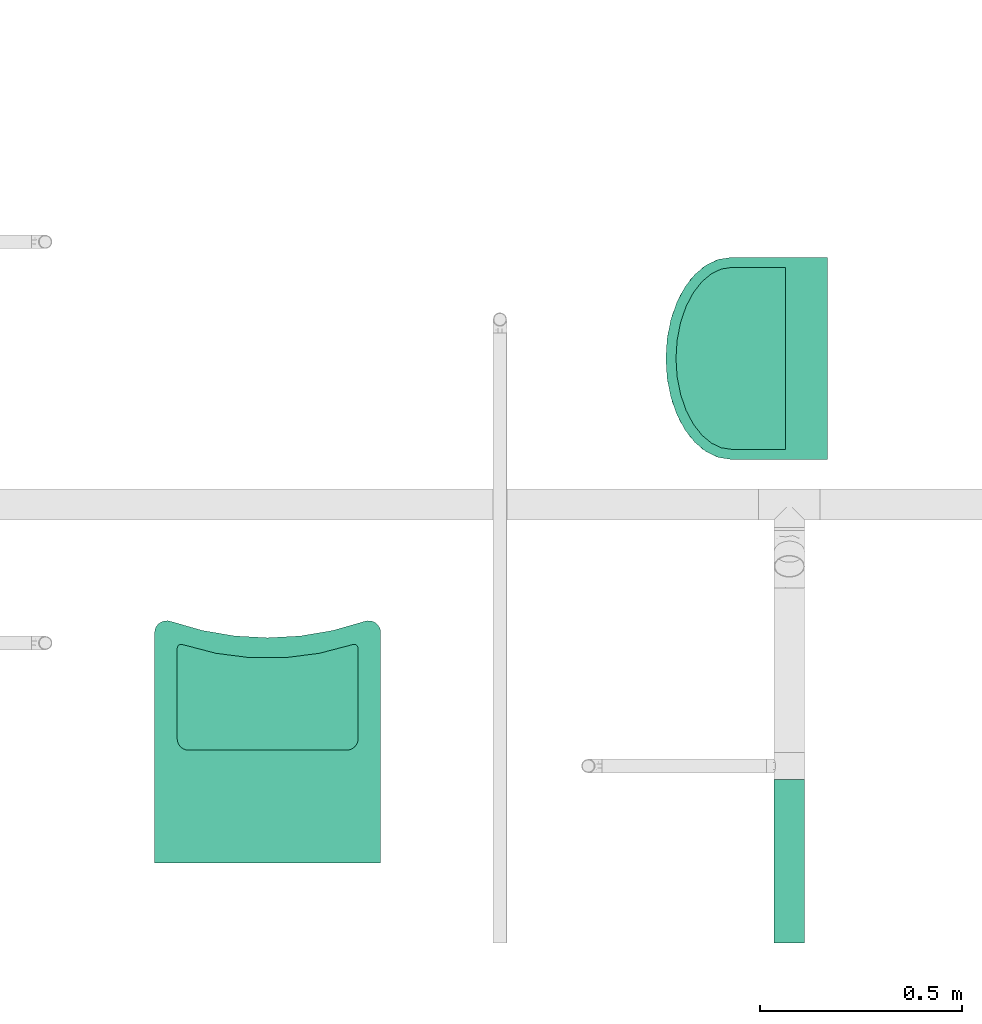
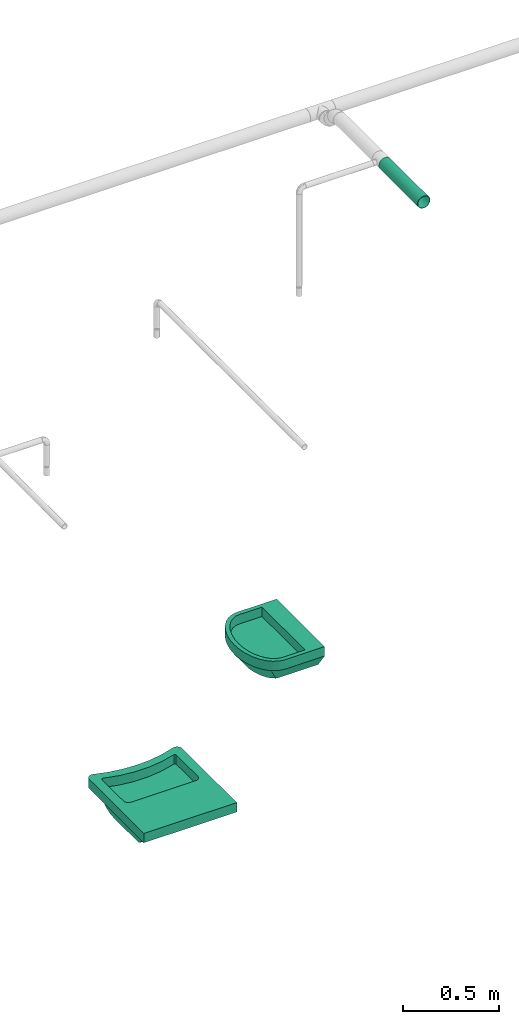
# One storey, part 85 of 95: 2 flow terminals, 1 flow segment.
"""IFC2X3 building model written with IfcOpenShell, lengths in millimetres."""

from ifc_helpers import new_model, entity, si_unit, converted_unit, derived_unit, direction, frame, origin_with_axes, place, context, subcontext, project, spatial, open_shell, faceted_brep, surface_model, source, transform, mapped, type_object, element, save


model = new_model("IFC2X3")

# Units and contexts
model_context = context("Model", 3, precision=0.01, world=frame((0.0, 4.29681676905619e-09, 0.0)), true_north=direction((4.01073788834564e-13, 1.0)))
plan_context = context("Plan", 3, precision=0.01, world=frame((0.0, 4.29681676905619e-09, 0.0)), true_north=direction((4.01073788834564e-13, 1.0)))
body_context = subcontext(model_context, "Body", "Model", "MODEL_VIEW")
ifc_project = project(units=[converted_unit("PLANEANGLEUNIT", "DEGREE", entity("IfcPositiveLengthMeasure", 0.0174532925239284), si_unit("PLANEANGLEUNIT", "RADIAN"), dimensions=[0, 0, 0, 0, 0, 0, 0]), si_unit("AREAUNIT", "SQUARE_METRE"), si_unit("LENGTHUNIT", "METRE", prefix="MILLI"), si_unit("MASSUNIT", "GRAM", prefix="KILO"), si_unit("POWERUNIT", "WATT"), si_unit("PRESSUREUNIT", "PASCAL"), si_unit("FORCEUNIT", "NEWTON", prefix="KILO"), si_unit("ELECTRICVOLTAGEUNIT", "VOLT"), si_unit("ELECTRICCURRENTUNIT", "AMPERE"), si_unit("THERMODYNAMICTEMPERATUREUNIT", "DEGREE_CELSIUS"), si_unit("TIMEUNIT", "SECOND"), si_unit("VOLUMEUNIT", "CUBIC_METRE"), derived_unit("LINEARVELOCITYUNIT", [(si_unit("LENGTHUNIT", "METRE"), 1), (si_unit("TIMEUNIT", "SECOND"), -1)]), derived_unit("VOLUMETRICFLOWRATEUNIT", [(si_unit("VOLUMEUNIT", "CUBIC_METRE"), 1), (si_unit("TIMEUNIT", "SECOND"), -1)]), derived_unit("THERMALTRANSMITTANCEUNIT", [(si_unit("POWERUNIT", "WATT"), 1), (si_unit("THERMODYNAMICTEMPERATUREUNIT", "KELVIN"), -1), (si_unit("AREAUNIT", "SQUARE_METRE"), -1)]), derived_unit("SOUNDPRESSUREUNIT", [(si_unit("PRESSUREUNIT", "PASCAL"), 1)])], contexts=[model_context, plan_context])

# Site, building, storey
site_placement = place(None, frame((0.0, -4.29681676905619e-09, 0.0), z_axis=(0.0, 0.0, 1.0), x_axis=(1.0, 0.0, 0.0)))
site = spatial("IfcSite", under=ifc_project, at=site_placement, CompositionType="ELEMENT")
building_placement = place(site_placement, frame((0.0, 4.29681676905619e-09, 0.0), z_axis=(0.0, 0.0, 1.0), x_axis=(1.0, 0.0, 0.0)))
building = spatial("IfcBuilding", under=site, at=building_placement, Name="mc-building", CompositionType="ELEMENT")
storey_placement = place(building_placement, frame((0.0, 0.0, 210900.0), z_axis=(0.0, 0.0, 1.0), x_axis=(1.0, 0.0, 0.0)))
storey = spatial("IfcBuildingStorey", under=building, at=storey_placement, Name="Nivå F", CompositionType="ELEMENT", Elevation=210900.0)

# Flow terminals
sanitary_terminal_type_1 = type_object("IfcSanitaryTerminalType", Name="A313 - Vask - 560 x 600 mm", PredefinedType="NOTDEFINED")
shared_shape_1 = source(origin_with_axes(), body_context, "Body", "SurfaceModel", [
    surface_model("IfcShellBasedSurfaceModel", [(-125.0, 238.65771, 740.00003), (69.36977, 395.95483, 740.00003), (16.52906, 384.02209, 740.00003), (-30.87245, 364.80019, 740.00003), (125.0, 400.0, 740.00003), (375.0, 238.65771, 740.00003), (233.47094, 384.02209, 740.00003), (180.63024, 395.95483, 740.00003), (280.87245, 364.80019, 740.00003), (-70.45787, 339.25298, 740.00003), (-100.24222, 308.6615, 740.00003), (-118.73198, 274.55973, 740.00003), (-125.0, 0.0, 740.00003), (350.24221, 308.6615, 740.00003), (320.45787, 339.25298, 740.00003), (368.73196, 274.55973, 740.00003), (375.0, 0.0, 740.00003), (307.99999, 238.65771, 645.00002), (149.89975, 332.02661, 645.00002), (197.72223, 324.43445, 645.00002), (239.75161, 310.23626, 645.00002), (100.10024, 332.02661, 645.00002), (307.99999, 0.0, 645.00002), (-58.0, 238.65771, 645.00002), (10.24839, 310.23626, 645.00002), (52.27777, 324.43445, 645.00002), (-22.6773, 291.49031, 645.00002), (272.67731, 291.49031, 645.00002), (294.37927, 271.36561, 645.00002), (305.14467, 253.36524, 645.00002), (-58.0, 0.0, 645.00002), (-55.14466, 253.36524, 645.00002), (-44.37926, 271.36561, 645.00002), (328.59513, 238.65771, 674.20202), (-78.59511, 238.65771, 674.20202), (-100.0, 238.65771, 800.0), (-120.19632, 270.13402, 800.0), (-125.0, 238.65771, 800.0), (-96.30727, 262.77077, 800.0), (-105.96989, 300.40072, 800.0), (-125.0, 0.0, 800.0), (-100.0, 103.21022, 800.0), (-84.92823, 286.90067, 800.0), (-82.86741, 328.29468, 800.0), (-65.49599, 310.31224, 800.0), (-51.7767, 352.74395, 800.0), (-38.21841, 331.73716, 800.0), (-13.89256, 372.80893, 800.0), (-3.99228, 349.85107, 800.0), (29.32914, 387.71856, 800.0), (35.7857, 363.56585, 800.0), (79.41057, 372.10309, 800.0), (76.22742, 396.89987, 800.0), (125.0, 400.0, 800.0), (125.0, 375.0, 800.0), (350.0, 103.21022, 800.0), (346.30728, 262.77077, 800.0), (350.0, 238.65771, 800.0), (370.19634, 270.13402, 800.0), (332.8674, 328.29468, 800.0), (315.496, 310.31224, 800.0), (334.92821, 286.90067, 800.0), (355.96988, 300.40072, 800.0), (375.0, 0.0, 800.0), (375.0, 238.65771, 800.0), (170.58944, 372.10309, 800.0), (214.21429, 363.56585, 800.0), (173.77259, 396.89987, 800.0), (220.67085, 387.71856, 800.0), (253.99227, 349.85107, 800.0), (301.77669, 352.74395, 800.0), (288.21842, 331.73716, 800.0), (263.89256, 372.80893, 800.0), (350.0, 238.65771, 740.00003), (370.19634, 270.13402, 740.00003), (346.30728, 262.77077, 740.00003), (355.96988, 300.40072, 740.00003), (350.0, 103.21022, 740.00003), (334.92821, 286.90067, 740.00003), (332.8674, 328.29468, 740.00003), (315.496, 310.31224, 740.00003), (301.77669, 352.74395, 740.00003), (288.21842, 331.73716, 740.00003), (263.89256, 372.80893, 740.00003), (253.99227, 349.85107, 740.00003), (220.67085, 387.71856, 740.00003), (214.21429, 363.56585, 740.00003), (170.58944, 372.10309, 740.00003), (173.77259, 396.89987, 740.00003), (125.0, 375.0, 740.00003), (-100.0, 103.21022, 740.00003), (-96.30727, 262.77077, 740.00003), (-100.0, 238.65771, 740.00003), (-120.19632, 270.13402, 740.00003), (-82.86741, 328.29468, 740.00003), (-65.49599, 310.31224, 740.00003), (-84.92823, 286.90067, 740.00003), (-105.96989, 300.40072, 740.00003), (79.41057, 372.10309, 740.00003), (35.7857, 363.56585, 740.00003), (76.22742, 396.89987, 740.00003), (29.32914, 387.71856, 740.00003), (-3.99228, 349.85107, 740.00003), (-51.7767, 352.74395, 740.00003), (-38.21841, 331.73716, 740.00003), (-13.89256, 372.80893, 740.00003)], [open_shell([[[0, 1, 2]], [[2, 3, 0]], [[4, 1, 0]], [[5, 6, 7]], [[5, 8, 6]], [[5, 7, 4]], [[3, 9, 0]], [[10, 11, 0]], [[5, 4, 0]], [[5, 0, 12]], [[13, 14, 5]], [[13, 5, 15]], [[8, 5, 14]], [[12, 16, 5]], [[0, 9, 10]], [[17, 18, 19]], [[19, 20, 17]], [[21, 18, 22]], [[23, 24, 25]], [[23, 26, 24]], [[23, 25, 21]], [[20, 27, 17]], [[28, 29, 17]], [[18, 17, 22]], [[22, 30, 21]], [[31, 32, 23]], [[32, 26, 23]], [[30, 23, 21]], [[17, 27, 28]], [[16, 22, 5]], [[17, 5, 22]], [[29, 13, 17]], [[28, 14, 29]], [[8, 27, 20]], [[20, 19, 6]], [[28, 27, 14]], [[18, 7, 19]], [[17, 13, 15]], [[15, 33, 17]], [[6, 8, 20]], [[14, 27, 8]], [[14, 13, 29]], [[7, 6, 19]], [[18, 4, 7]], [[25, 1, 21]], [[24, 2, 25]], [[32, 31, 9]], [[9, 26, 32]], [[26, 3, 24]], [[10, 31, 23]], [[11, 23, 34]], [[1, 4, 21]], [[2, 1, 25]], [[3, 2, 24]], [[15, 5, 33]], [[26, 9, 3]], [[31, 10, 9]], [[11, 10, 23]], [[34, 0, 11]], [[21, 4, 18]], [[0, 23, 12]], [[30, 12, 23]], [[12, 30, 22]], [[22, 16, 12]], [[35, 36, 37]], [[38, 39, 36]], [[37, 40, 41]], [[41, 35, 37]], [[39, 42, 43]], [[38, 42, 39]], [[35, 38, 36]], [[43, 42, 44]], [[44, 45, 43]], [[45, 44, 46]], [[46, 47, 45]], [[47, 46, 48]], [[47, 48, 49]], [[50, 51, 52]], [[50, 52, 49]], [[53, 52, 51]], [[53, 51, 54]], [[50, 49, 48]], [[41, 40, 55]], [[56, 57, 58]], [[59, 60, 61]], [[56, 62, 61]], [[55, 63, 64]], [[56, 58, 62]], [[57, 64, 58]], [[64, 57, 55]], [[59, 61, 62]], [[65, 66, 67]], [[65, 67, 53]], [[67, 66, 68]], [[66, 69, 68]], [[53, 54, 65]], [[60, 70, 71]], [[70, 60, 59]], [[71, 72, 69]], [[72, 71, 70]], [[69, 72, 68]], [[55, 40, 63]], [[73, 74, 5]], [[75, 76, 74]], [[5, 16, 77]], [[77, 73, 5]], [[76, 78, 79]], [[75, 78, 76]], [[73, 75, 74]], [[79, 78, 80]], [[80, 81, 79]], [[81, 80, 82]], [[82, 83, 81]], [[83, 82, 84]], [[83, 84, 85]], [[86, 87, 88]], [[86, 88, 85]], [[4, 88, 87]], [[4, 87, 89]], [[86, 85, 84]], [[77, 16, 90]], [[91, 92, 93]], [[94, 95, 96]], [[91, 97, 96]], [[90, 12, 0]], [[91, 93, 97]], [[92, 0, 93]], [[0, 92, 90]], [[94, 96, 97]], [[98, 99, 100]], [[98, 100, 4]], [[100, 99, 101]], [[99, 102, 101]], [[4, 89, 98]], [[95, 103, 104]], [[103, 95, 94]], [[104, 105, 102]], [[105, 104, 103]], [[102, 105, 101]], [[90, 16, 12]], [[63, 40, 12]], [[12, 16, 63]], [[64, 63, 5]], [[16, 5, 63]], [[64, 5, 58]], [[62, 58, 74]], [[76, 59, 62]], [[72, 70, 81]], [[83, 68, 72]], [[79, 70, 59]], [[85, 67, 68]], [[59, 76, 79]], [[62, 74, 76]], [[58, 5, 74]], [[4, 53, 88]], [[67, 85, 88]], [[72, 81, 83]], [[83, 85, 68]], [[70, 79, 81]], [[88, 53, 67]], [[47, 49, 105]], [[49, 52, 101]], [[45, 47, 103]], [[93, 36, 39]], [[39, 43, 97]], [[43, 45, 94]], [[37, 36, 0]], [[100, 53, 4]], [[52, 100, 101]], [[49, 101, 105]], [[105, 103, 47]], [[94, 45, 103]], [[43, 94, 97]], [[39, 97, 93]], [[93, 0, 36]], [[52, 53, 100]], [[40, 37, 12]], [[0, 12, 37]], [[55, 57, 73]], [[73, 77, 55]], [[41, 55, 90]], [[77, 90, 55]], [[35, 41, 92]], [[90, 92, 41]], [[35, 92, 38]], [[42, 38, 91]], [[96, 44, 42]], [[48, 46, 104]], [[50, 48, 102]], [[95, 46, 44]], [[50, 99, 51]], [[91, 38, 92]], [[95, 44, 96]], [[91, 96, 42]], [[104, 102, 48]], [[46, 95, 104]], [[99, 50, 102]], [[98, 51, 99]], [[98, 89, 54]], [[98, 54, 51]], [[69, 66, 84]], [[66, 65, 86]], [[71, 69, 82]], [[56, 61, 75]], [[61, 60, 78]], [[60, 71, 80]], [[56, 73, 57]], [[86, 65, 87]], [[87, 65, 89]], [[84, 66, 86]], [[56, 75, 73]], [[71, 82, 80]], [[60, 80, 78]], [[61, 78, 75]], [[82, 69, 84]], [[54, 89, 65]]])]),
])
flow_terminal_1_placement = place(storey_placement, frame((534695.0, 442097.875, 0.0), z_axis=(0.0, 0.0, 1.0), x_axis=(0.0, 1.0, 0.0)))
element("IfcFlowTerminal", 1, at=flow_terminal_1_placement, inside=storey, type_object=sanitary_terminal_type_1, Name="A313 - Vask - 560 x 600 mm", context=body_context, shape_type="MappedRepresentation", body=[
    mapped(shared_shape_1, transform((0.0, 0.0, 0.0), scale=1.0)),
])
sanitary_terminal_type_2 = type_object("IfcSanitaryTerminalType", Name="A313 - HC Vask - 560 x 600 mm", PredefinedType="NOTDEFINED")
shared_shape_2 = source(origin_with_axes(), body_context, "Body", "SurfaceModel", [
    surface_model("IfcShellBasedSurfaceModel", [(359.0, 541.34425, 740.00003), (359.0, 497.70022, 681.78288), (359.0, 522.91223, 708.35008), (359.0, 467.05776, 661.72051), (359.0, 432.62497, 649.23682), (359.0, 396.24493, 645.00002), (359.0, 103.21022, 740.00003), (359.0, 143.21023, 645.00002), (359.0, 103.21022, 684.99998), (359.0, 123.21023, 650.35899), (359.0, 108.56921, 665.00003), (359.0, 104.5732, 674.64727), (359.0, 132.85746, 646.36294), (359.0, 114.92595, 656.71573), (-109.0, 104.5732, 674.64727), (-109.0, 103.21022, 684.99998), (-109.0, 108.56921, 665.00003), (-109.0, 143.21023, 645.00002), (-109.0, 123.21023, 650.35899), (-109.0, 114.92595, 656.71573), (-109.0, 132.85746, 646.36294), (-109.0, 103.21022, 740.00003), (-109.0, 497.70022, 681.78288), (-109.0, 541.34425, 740.00003), (-109.0, 522.91223, 708.35008), (-109.0, 467.05776, 661.72051), (-109.0, 396.24493, 645.00002), (-109.0, 432.62497, 649.23682), (-155.0, 178.6577, 800.0), (-95.24871, 293.45771, 800.0), (-98.04592, 300.21076, 800.0), (-71.0, 279.45771, 800.0), (-155.0, 0.0, 800.0), (-99.0, 307.45769, 800.0), (-155.0, 569.99998, 800.0), (-98.72224, 533.68479, 800.0), (-97.90436, 535.89531, 800.0), (-99.0, 531.34424, 800.0), (-85.0, 283.20899, 800.0), (-90.79899, 287.65871, 800.0), (-78.24693, 280.41177, 800.0), (43.60833, 562.15064, 800.0), (-2.90605, 519.18452, 800.0), (82.13206, 508.26836, 800.0), (404.99999, 0.0, 800.0), (-96.59183, 537.853, 800.0), (-136.09922, 597.87125, 800.0), (-151.65506, 583.76618, 800.0), (-154.15178, 577.08338, 800.0), (-142.36615, 594.46255, 800.0), (-147.65104, 589.67055, 800.0), (-129.20466, 599.70387, 800.0), (-122.07232, 599.85681, 800.0), (-115.10554, 598.32136, 800.0), (-94.85755, 539.44912, 800.0), (-92.79785, 540.59498, 800.0), (-90.52718, 541.22696, 800.0), (-88.17167, 541.30987, 800.0), (-85.86217, 540.83919, 800.0), (-36.76277, 575.78593, 800.0), (125.0, 557.58646, 800.0), (328.24693, 280.41177, 800.0), (320.99999, 279.45771, 800.0), (404.99999, 178.6577, 800.0), (340.799, 287.65871, 800.0), (335.0, 283.20899, 800.0), (206.39167, 562.15064, 800.0), (167.86795, 508.26836, 800.0), (252.90606, 519.18452, 800.0), (345.24869, 293.45771, 800.0), (348.99999, 307.45769, 800.0), (348.04591, 300.21076, 800.0), (348.99999, 531.34424, 800.0), (404.99999, 569.99998, 800.0), (346.59182, 537.853, 800.0), (347.90438, 535.89531, 800.0), (348.72225, 533.68479, 800.0), (344.85755, 539.44912, 800.0), (365.10555, 598.32136, 800.0), (335.86217, 540.83919, 800.0), (338.17165, 541.30987, 800.0), (340.52718, 541.22696, 800.0), (342.79786, 540.59498, 800.0), (286.76277, 575.78593, 800.0), (404.15178, 577.08338, 800.0), (401.65506, 583.76618, 800.0), (386.09922, 597.87125, 800.0), (379.20465, 599.70387, 800.0), (392.36617, 594.46255, 800.0), (397.65105, 589.67055, 800.0), (372.07231, 599.85681, 800.0), (404.99999, 178.6577, 740.00003), (345.24869, 293.45771, 740.00003), (348.04591, 300.21076, 740.00003), (320.99999, 279.45771, 740.00003), (404.99999, 0.0, 740.00003), (348.99999, 307.45769, 740.00003), (404.99999, 569.99998, 740.00003), (348.72225, 533.68479, 740.00003), (347.90438, 535.89531, 740.00003), (348.99999, 531.34424, 740.00003), (335.0, 283.20899, 740.00003), (340.799, 287.65871, 740.00003), (328.24693, 280.41177, 740.00003), (206.39167, 562.15064, 740.00003), (252.90606, 519.18452, 740.00003), (167.86795, 508.26836, 740.00003), (-71.0, 279.45771, 740.00003), (346.59182, 537.853, 740.00003), (386.09922, 597.87125, 740.00003), (401.65506, 583.76618, 740.00003), (404.15178, 577.08338, 740.00003), (392.36617, 594.46255, 740.00003), (397.65105, 589.67055, 740.00003), (379.20465, 599.70387, 740.00003), (372.07231, 599.85681, 740.00003), (365.10555, 598.32136, 740.00003), (344.85755, 539.44912, 740.00003), (342.79786, 540.59498, 740.00003), (340.52718, 541.22696, 740.00003), (338.17165, 541.30987, 740.00003), (335.86217, 540.83919, 740.00003), (286.76277, 575.78593, 740.00003), (125.0, 557.58646, 740.00003), (-78.24693, 280.41177, 740.00003), (-155.0, 178.6577, 740.00003), (-90.79899, 287.65871, 740.00003), (-85.0, 283.20899, 740.00003), (43.60833, 562.15064, 740.00003), (82.13206, 508.26836, 740.00003), (-2.90605, 519.18452, 740.00003), (-95.24871, 293.45771, 740.00003), (-99.0, 307.45769, 740.00003), (-98.04592, 300.21076, 740.00003), (-155.0, 0.0, 740.00003), (-99.0, 531.34424, 740.00003), (-155.0, 569.99998, 740.00003), (-96.59183, 537.853, 740.00003), (-97.90436, 535.89531, 740.00003), (-98.72224, 533.68479, 740.00003), (-94.85755, 539.44912, 740.00003), (-115.10554, 598.32136, 740.00003), (-85.86217, 540.83919, 740.00003), (-88.17167, 541.30987, 740.00003), (-90.52718, 541.22696, 740.00003), (-92.79785, 540.59498, 740.00003), (-36.76277, 575.78593, 740.00003), (-154.15178, 577.08338, 740.00003), (-151.65506, 583.76618, 740.00003), (-136.09922, 597.87125, 740.00003), (-129.20466, 599.70387, 740.00003), (-142.36615, 594.46255, 740.00003), (-147.65104, 589.67055, 740.00003), (-122.07232, 599.85681, 740.00003)], [open_shell([[[0, 1, 2]], [[1, 0, 3]], [[3, 0, 4]], [[4, 0, 5]], [[5, 6, 7]], [[5, 0, 6]], [[7, 8, 9]], [[10, 8, 11]], [[7, 9, 12]], [[10, 13, 9]], [[8, 10, 9]], [[8, 7, 6]], [[14, 15, 16]], [[15, 17, 18]], [[19, 16, 18]], [[18, 16, 15]], [[18, 17, 20]], [[15, 21, 17]], [[22, 23, 24]], [[23, 22, 25]], [[21, 26, 17]], [[27, 26, 23]], [[25, 27, 23]], [[26, 21, 23]], [[6, 0, 21]], [[23, 21, 0]], [[8, 6, 15]], [[21, 15, 6]], [[5, 7, 26]], [[17, 26, 7]], [[5, 26, 27]], [[4, 27, 25]], [[27, 4, 5]], [[4, 25, 3]], [[25, 22, 3]], [[1, 22, 24]], [[2, 24, 23]], [[24, 2, 1]], [[2, 23, 0]], [[22, 1, 3]], [[11, 14, 16]], [[10, 16, 19]], [[15, 14, 8]], [[8, 14, 11]], [[16, 10, 11]], [[19, 13, 10]], [[9, 18, 20]], [[12, 20, 17]], [[13, 18, 9]], [[9, 20, 12]], [[17, 7, 12]], [[18, 13, 19]], [[28, 29, 30]], [[31, 28, 32]], [[28, 30, 33]], [[28, 33, 34]], [[35, 36, 34]], [[34, 33, 37]], [[34, 37, 35]], [[38, 39, 28]], [[31, 40, 28]], [[38, 28, 40]], [[41, 42, 43]], [[39, 29, 28]], [[31, 32, 44]], [[36, 45, 34]], [[46, 47, 48]], [[49, 50, 47]], [[48, 34, 51]], [[49, 47, 46]], [[46, 48, 51]], [[34, 52, 51]], [[34, 53, 52]], [[54, 55, 53]], [[55, 56, 53]], [[57, 58, 53]], [[57, 53, 56]], [[53, 58, 59]], [[42, 59, 58]], [[42, 41, 59]], [[53, 34, 45]], [[45, 54, 53]], [[43, 60, 41]], [[61, 62, 63]], [[64, 65, 63]], [[61, 63, 65]], [[66, 67, 68]], [[64, 63, 69]], [[70, 71, 63]], [[63, 71, 69]], [[62, 44, 63]], [[72, 70, 73]], [[74, 75, 73]], [[73, 76, 72]], [[75, 76, 73]], [[73, 70, 63]], [[60, 43, 67]], [[77, 74, 78]], [[79, 80, 78]], [[81, 82, 78]], [[80, 81, 78]], [[60, 67, 66]], [[78, 83, 79]], [[68, 83, 66]], [[77, 78, 82]], [[68, 79, 83]], [[84, 85, 86]], [[87, 73, 84]], [[88, 85, 89]], [[90, 73, 87]], [[86, 87, 84]], [[88, 86, 85]], [[73, 90, 78]], [[74, 73, 78]], [[31, 44, 62]], [[91, 92, 93]], [[94, 91, 95]], [[91, 93, 96]], [[91, 96, 97]], [[98, 99, 97]], [[97, 96, 100]], [[97, 100, 98]], [[101, 102, 91]], [[94, 103, 91]], [[101, 91, 103]], [[104, 105, 106]], [[102, 92, 91]], [[94, 95, 107]], [[99, 108, 97]], [[109, 110, 111]], [[112, 113, 110]], [[111, 97, 114]], [[112, 110, 109]], [[109, 111, 114]], [[97, 115, 114]], [[97, 116, 115]], [[117, 118, 116]], [[118, 119, 116]], [[120, 121, 116]], [[120, 116, 119]], [[116, 121, 122]], [[105, 122, 121]], [[105, 104, 122]], [[116, 97, 108]], [[108, 117, 116]], [[106, 123, 104]], [[124, 107, 125]], [[126, 127, 125]], [[124, 125, 127]], [[128, 129, 130]], [[126, 125, 131]], [[132, 133, 125]], [[125, 133, 131]], [[107, 134, 125]], [[135, 132, 136]], [[137, 138, 136]], [[136, 139, 135]], [[138, 139, 136]], [[136, 132, 125]], [[123, 106, 129]], [[140, 137, 141]], [[142, 143, 141]], [[144, 145, 141]], [[143, 144, 141]], [[123, 129, 128]], [[141, 146, 142]], [[130, 146, 128]], [[140, 141, 145]], [[130, 142, 146]], [[147, 148, 149]], [[150, 136, 147]], [[151, 148, 152]], [[153, 136, 150]], [[149, 150, 147]], [[151, 149, 148]], [[136, 153, 141]], [[137, 136, 141]], [[95, 134, 107]], [[44, 32, 95]], [[134, 95, 32]], [[63, 44, 95]], [[95, 91, 63]], [[73, 63, 91]], [[91, 97, 73]], [[97, 111, 84]], [[113, 112, 89]], [[73, 97, 84]], [[85, 110, 89]], [[85, 84, 111]], [[89, 110, 113]], [[110, 85, 111]], [[112, 88, 89]], [[86, 109, 114]], [[87, 114, 115]], [[90, 115, 116]], [[88, 109, 86]], [[87, 86, 114]], [[115, 90, 87]], [[116, 78, 90]], [[109, 88, 112]], [[83, 78, 122]], [[66, 83, 104]], [[122, 78, 116]], [[104, 83, 122]], [[104, 123, 66]], [[123, 60, 66]], [[59, 41, 146]], [[53, 59, 141]], [[123, 128, 60]], [[128, 41, 60]], [[146, 41, 128]], [[146, 141, 59]], [[52, 153, 150]], [[51, 150, 149]], [[46, 149, 151]], [[53, 141, 52]], [[153, 52, 141]], [[150, 51, 52]], [[149, 46, 51]], [[151, 49, 46]], [[50, 152, 148]], [[47, 148, 147]], [[48, 147, 136]], [[49, 152, 50]], [[47, 50, 148]], [[147, 48, 47]], [[136, 34, 48]], [[152, 49, 151]], [[28, 34, 125]], [[136, 125, 34]], [[32, 28, 125]], [[125, 134, 32]], [[31, 62, 94]], [[94, 107, 31]], [[127, 38, 40]], [[124, 40, 31]], [[124, 31, 107]], [[127, 40, 124]], [[127, 126, 38]], [[126, 39, 38]], [[132, 33, 30]], [[133, 30, 29]], [[126, 131, 39]], [[131, 29, 39]], [[133, 29, 131]], [[133, 132, 30]], [[37, 33, 135]], [[132, 135, 33]], [[135, 35, 37]], [[138, 45, 36]], [[139, 36, 35]], [[139, 35, 135]], [[138, 137, 45]], [[36, 139, 138]], [[140, 54, 137]], [[54, 45, 137]], [[145, 56, 55]], [[143, 58, 57]], [[144, 57, 56]], [[145, 55, 140]], [[144, 143, 57]], [[56, 145, 144]], [[142, 58, 143]], [[54, 140, 55]], [[58, 142, 130]], [[42, 130, 129]], [[42, 58, 130]], [[43, 42, 129]], [[129, 106, 43]], [[67, 106, 105]], [[68, 105, 121]], [[68, 67, 105]], [[79, 68, 121]], [[106, 67, 43]], [[121, 80, 79]], [[119, 82, 81]], [[120, 81, 80]], [[120, 80, 121]], [[119, 118, 82]], [[81, 120, 119]], [[117, 77, 118]], [[77, 82, 118]], [[108, 75, 74]], [[98, 72, 76]], [[99, 76, 75]], [[108, 74, 117]], [[99, 98, 76]], [[75, 108, 99]], [[100, 72, 98]], [[77, 117, 74]], [[70, 72, 96]], [[100, 96, 72]], [[71, 70, 93]], [[69, 71, 92]], [[70, 96, 93]], [[69, 92, 102]], [[92, 71, 93]], [[102, 64, 69]], [[61, 65, 103]], [[62, 61, 94]], [[102, 101, 64]], [[101, 65, 64]], [[103, 65, 101]], [[103, 94, 61]]])]),
])
flow_terminal_2_placement = place(storey_placement, frame((533183.9875, 440973.5, 0.0), z_axis=(0.0, 0.0, 1.0), x_axis=(1.0, 0.0, 0.0)))
element("IfcFlowTerminal", 2, at=flow_terminal_2_placement, inside=storey, type_object=sanitary_terminal_type_2, Name="A313 - HC Vask - 560 x 600 mm", context=body_context, shape_type="MappedRepresentation", body=[
    mapped(shared_shape_2, transform((0.0, 0.0, 0.0), scale=1.0)),
])

# Flow segment
pipe_segment_type = type_object("IfcPipeSegmentType", Name="Stålrør normaltykke", PredefinedType="RIGIDSEGMENT")
flow_segment_placement = place(storey_placement, frame((534600.81021, 441179.8625, 4390.0), z_axis=(0.0, 0.0, 1.0), x_axis=(0.0, -1.0, 0.0)))
element("IfcFlowSegment", 3, at=flow_segment_placement, inside=storey, type_object=pipe_segment_type, Name="Stålrør normaltykke", context=body_context, shape_type="Brep", body=[
    faceted_brep([(404.862500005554, 36.0, 0.0), (404.862500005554, 35.4530791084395, -6.25133439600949), (0.0, 35.4530791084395, -6.25133439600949), (0.0, 36.0, 0.0), (404.862500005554, 33.8289343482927, -12.3127251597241), (0.0, 33.8289343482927, -12.3127251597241), (404.862500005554, 31.1769145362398, -18.0), (0.0, 31.1769145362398, -18.0), (404.862500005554, 27.5775999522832, -23.1403539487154), (0.0, 27.5775999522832, -23.1403539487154), (404.862500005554, 23.1403539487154, -27.5775999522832), (0.0, 23.1403539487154, -27.5775999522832), (404.862500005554, 18.0, -31.1769145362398), (0.0, 18.0, -31.1769145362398), (404.862500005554, 12.3127251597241, -33.8289343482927), (0.0, 12.3127251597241, -33.8289343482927), (404.862500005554, 6.25133439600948, -35.4530791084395), (0.0, 6.25133439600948, -35.4530791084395), (404.862500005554, -6.61309271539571e-15, -36.0), (0.0, -6.61309271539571e-15, -36.0), (404.862500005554, -6.25133439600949, -35.4530791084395), (0.0, -6.25133439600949, -35.4530791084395), (404.862500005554, -12.3127251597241, -33.8289343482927), (0.0, -12.3127251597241, -33.8289343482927), (404.862500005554, -18.0, -31.1769145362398), (0.0, -18.0, -31.1769145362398), (404.862500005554, -23.1403539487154, -27.5775999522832), (0.0, -23.1403539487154, -27.5775999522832), (404.862500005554, -27.5775999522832, -23.1403539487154), (0.0, -27.5775999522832, -23.1403539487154), (404.862500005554, -31.1769145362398, -18.0), (0.0, -31.1769145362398, -18.0), (404.862500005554, -33.8289343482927, -12.3127251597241), (0.0, -33.8289343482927, -12.3127251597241), (404.862500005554, -35.4530791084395, -6.25133439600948), (0.0, -35.4530791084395, -6.25133439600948), (404.862500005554, -36.0, 4.40872847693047e-15), (0.0, -36.0, 4.40872847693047e-15), (404.862500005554, -35.4530791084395, 6.25133439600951), (0.0, -35.4530791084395, 6.25133439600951), (404.862500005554, -33.8289343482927, 12.3127251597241), (0.0, -33.8289343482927, 12.3127251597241), (404.862500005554, -31.1769145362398, 18.0), (0.0, -31.1769145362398, 18.0), (404.862500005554, -27.5775999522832, 23.1403539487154), (0.0, -27.5775999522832, 23.1403539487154), (404.862500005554, -23.1403539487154, 27.5775999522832), (0.0, -23.1403539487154, 27.5775999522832), (404.862500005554, -18.0, 31.1769145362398), (0.0, -18.0, 31.1769145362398), (404.862500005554, -12.3127251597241, 33.8289343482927), (0.0, -12.3127251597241, 33.8289343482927), (404.862500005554, -6.25133439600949, 35.4530791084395), (0.0, -6.25133439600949, 35.4530791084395), (404.862500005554, 2.20436423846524e-15, 36.0), (0.0, 2.20436423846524e-15, 36.0), (404.862500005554, 6.2513343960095, 35.4530791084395), (0.0, 6.2513343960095, 35.4530791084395), (404.862500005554, 12.3127251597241, 33.8289343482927), (0.0, 12.3127251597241, 33.8289343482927), (404.862500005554, 18.0, 31.1769145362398), (0.0, 18.0, 31.1769145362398), (404.862500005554, 23.1403539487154, 27.5775999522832), (0.0, 23.1403539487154, 27.5775999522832), (404.862500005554, 27.5775999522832, 23.1403539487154), (0.0, 27.5775999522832, 23.1403539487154), (404.862500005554, 31.1769145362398, 18.0), (0.0, 31.1769145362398, 18.0), (404.862500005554, 33.8289343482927, 12.3127251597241), (0.0, 33.8289343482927, 12.3127251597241), (404.862500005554, 35.4530791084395, 6.25133439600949), (0.0, 35.4530791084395, 6.25133439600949), (404.862500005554, 37.4226946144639, -6.59863075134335), (404.862500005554, 38.0, 0.0), (0.0, 38.0, 0.0), (0.0, 37.4226946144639, -6.59863075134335), (404.862500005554, 37.4226946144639, 6.59863075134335), (0.0, 37.4226946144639, 6.59863075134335), (404.862500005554, 35.7083195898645, 12.9967654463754), (0.0, 35.7083195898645, 12.9967654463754), (404.862500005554, 32.9089653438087, 19.0), (0.0, 32.9089653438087, 19.0), (404.862500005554, 29.1096888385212, 24.4259291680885), (0.0, 29.1096888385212, 24.4259291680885), (404.862500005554, 24.4259291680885, 29.1096888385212), (0.0, 24.4259291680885, 29.1096888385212), (404.862500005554, 19.0, 32.9089653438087), (0.0, 19.0, 32.9089653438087), (404.862500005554, 12.9967654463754, 35.7083195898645), (0.0, 12.9967654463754, 35.7083195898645), (404.862500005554, 6.59863075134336, 37.4226946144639), (0.0, 6.59863075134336, 37.4226946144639), (404.862500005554, 2.32682891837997e-15, 38.0), (0.0, 2.32682891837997e-15, 38.0), (404.862500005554, -6.59863075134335, 37.4226946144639), (0.0, -6.59863075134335, 37.4226946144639), (404.862500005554, -12.9967654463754, 35.7083195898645), (0.0, -12.9967654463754, 35.7083195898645), (404.862500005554, -19.0, 32.9089653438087), (0.0, -19.0, 32.9089653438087), (404.862500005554, -24.4259291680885, 29.1096888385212), (0.0, -24.4259291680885, 29.1096888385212), (404.862500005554, -29.1096888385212, 24.4259291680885), (0.0, -29.1096888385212, 24.4259291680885), (404.862500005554, -32.9089653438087, 19.0), (0.0, -32.9089653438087, 19.0), (404.862500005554, -35.7083195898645, 12.9967654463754), (0.0, -35.7083195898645, 12.9967654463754), (404.862500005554, -37.4226946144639, 6.59863075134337), (0.0, -37.4226946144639, 6.59863075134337), (404.862500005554, -38.0, 4.65365783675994e-15), (0.0, -38.0, 4.65365783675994e-15), (404.862500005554, -37.4226946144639, -6.59863075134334), (0.0, -37.4226946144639, -6.59863075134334), (404.862500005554, -35.7083195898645, -12.9967654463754), (0.0, -35.7083195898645, -12.9967654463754), (404.862500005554, -32.9089653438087, -19.0), (0.0, -32.9089653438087, -19.0), (404.862500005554, -29.1096888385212, -24.4259291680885), (0.0, -29.1096888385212, -24.4259291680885), (404.862500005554, -24.4259291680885, -29.1096888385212), (0.0, -24.4259291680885, -29.1096888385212), (404.862500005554, -19.0, -32.9089653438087), (0.0, -19.0, -32.9089653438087), (404.862500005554, -12.9967654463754, -35.7083195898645), (0.0, -12.9967654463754, -35.7083195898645), (404.862500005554, -6.59863075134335, -37.4226946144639), (0.0, -6.59863075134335, -37.4226946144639), (404.862500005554, -6.98048675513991e-15, -38.0), (0.0, -6.98048675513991e-15, -38.0), (404.862500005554, 6.59863075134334, -37.4226946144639), (0.0, 6.59863075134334, -37.4226946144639), (404.862500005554, 12.9967654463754, -35.7083195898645), (0.0, 12.9967654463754, -35.7083195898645), (404.862500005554, 19.0, -32.9089653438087), (0.0, 19.0, -32.9089653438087), (404.862500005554, 24.4259291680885, -29.1096888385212), (0.0, 24.4259291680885, -29.1096888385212), (404.862500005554, 29.1096888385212, -24.4259291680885), (0.0, 29.1096888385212, -24.4259291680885), (404.862500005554, 32.9089653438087, -19.0), (0.0, 32.9089653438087, -19.0), (404.862500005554, 35.7083195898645, -12.9967654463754), (0.0, 35.7083195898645, -12.9967654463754)], [[[0, 1, 2, 3]], [[1, 4, 5, 2]], [[4, 6, 7, 5]], [[6, 8, 9, 7]], [[8, 10, 11, 9]], [[10, 12, 13, 11]], [[12, 14, 15, 13]], [[14, 16, 17, 15]], [[16, 18, 19, 17]], [[18, 20, 21, 19]], [[20, 22, 23, 21]], [[22, 24, 25, 23]], [[24, 26, 27, 25]], [[26, 28, 29, 27]], [[28, 30, 31, 29]], [[30, 32, 33, 31]], [[32, 34, 35, 33]], [[34, 36, 37, 35]], [[36, 38, 39, 37]], [[38, 40, 41, 39]], [[40, 42, 43, 41]], [[42, 44, 45, 43]], [[44, 46, 47, 45]], [[46, 48, 49, 47]], [[48, 50, 51, 49]], [[50, 52, 53, 51]], [[52, 54, 55, 53]], [[54, 56, 57, 55]], [[56, 58, 59, 57]], [[58, 60, 61, 59]], [[60, 62, 63, 61]], [[62, 64, 65, 63]], [[64, 66, 67, 65]], [[66, 68, 69, 67]], [[68, 70, 71, 69]], [[70, 0, 3, 71]], [[72, 73, 74, 75]], [[73, 76, 77, 74]], [[76, 78, 79, 77]], [[78, 80, 81, 79]], [[80, 82, 83, 81]], [[82, 84, 85, 83]], [[84, 86, 87, 85]], [[86, 88, 89, 87]], [[88, 90, 91, 89]], [[90, 92, 93, 91]], [[92, 94, 95, 93]], [[94, 96, 97, 95]], [[96, 98, 99, 97]], [[98, 100, 101, 99]], [[100, 102, 103, 101]], [[102, 104, 105, 103]], [[104, 106, 107, 105]], [[106, 108, 109, 107]], [[108, 110, 111, 109]], [[110, 112, 113, 111]], [[112, 114, 115, 113]], [[114, 116, 117, 115]], [[116, 118, 119, 117]], [[118, 120, 121, 119]], [[120, 122, 123, 121]], [[122, 124, 125, 123]], [[124, 126, 127, 125]], [[126, 128, 129, 127]], [[128, 130, 131, 129]], [[130, 132, 133, 131]], [[132, 134, 135, 133]], [[134, 136, 137, 135]], [[136, 138, 139, 137]], [[138, 140, 141, 139]], [[140, 142, 143, 141]], [[142, 72, 75, 143]], [[75, 74, 77, 79, 81, 83, 85, 87, 89, 91, 93, 95, 97, 99, 101, 103, 105, 107, 109, 111, 113, 115, 117, 119, 121, 123, 125, 127, 129, 131, 133, 135, 137, 139, 141, 143], [3, 2, 5, 7, 9, 11, 13, 15, 17, 19, 21, 23, 25, 27, 29, 31, 33, 35, 37, 39, 41, 43, 45, 47, 49, 51, 53, 55, 57, 59, 61, 63, 65, 67, 69, 71]], [[142, 140, 138, 136, 134, 132, 130, 128, 126, 124, 122, 120, 118, 116, 114, 112, 110, 108, 106, 104, 102, 100, 98, 96, 94, 92, 90, 88, 86, 84, 82, 80, 78, 76, 73, 72], [70, 68, 66, 64, 62, 60, 58, 56, 54, 52, 50, 48, 46, 44, 42, 40, 38, 36, 34, 32, 30, 28, 26, 24, 22, 20, 18, 16, 14, 12, 10, 8, 6, 4, 1, 0]]], orient=[[False], [False], [False], [False], [False], [False], [False], [False], [False], [False], [False], [False], [False], [False], [False], [False], [False], [False], [False], [False], [False], [False], [False], [False], [False], [False], [False], [False], [False], [False], [False], [False], [False], [False], [False], [False], [False], [False], [False], [False], [False], [False], [False], [False], [False], [False], [False], [False], [False], [False], [False], [False], [False], [False], [False], [False], [False], [False], [False], [False], [False], [False], [False], [False], [False], [False], [False], [False], [False], [False], [False], [False], [False, False], [False, False]]),
])

save(model, "model.ifc")
